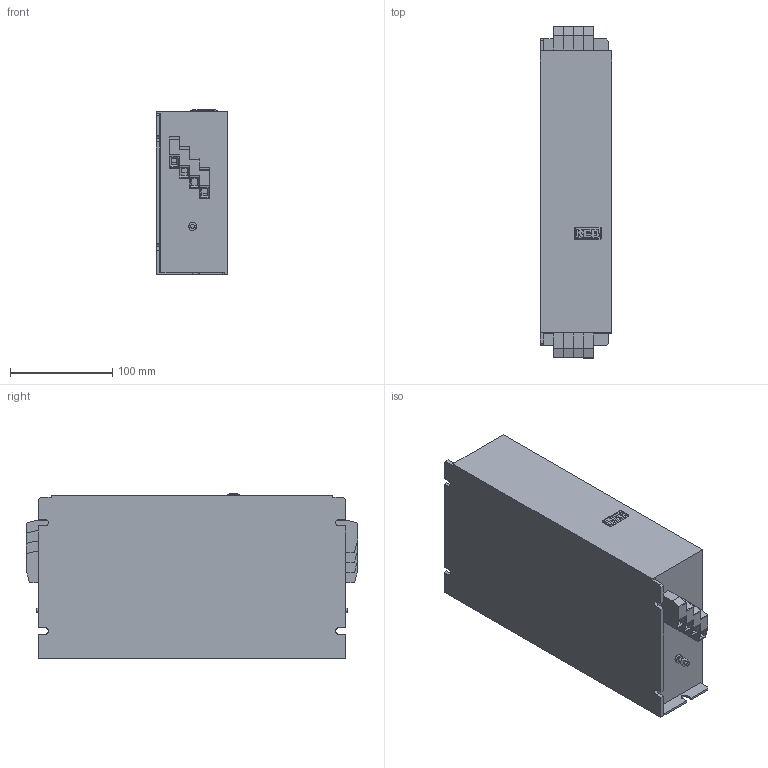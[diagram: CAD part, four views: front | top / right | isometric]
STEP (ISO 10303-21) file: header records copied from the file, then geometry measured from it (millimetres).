
FILE_DESCRIPTION (( 'STEP AP214' ), '1' );
FILE_NAME ('00E6X04-0016.STEP', '2023-07-10T12:13:47', ( '' ), ( '' ), 'SwSTEP 2.0', 'SolidWorks 2022', '' );
FILE_SCHEMA (( 'AUTOMOTIVE_DESIGN' ));
Length unit declared in the file: millimetre
Products named in the file (1): 00E6X04-0016
Bounding box: 70 x 325 x 161.52 mm (x, y, z)
Volume: 3162003.5 mm3; surface area: 171683.9 mm2
Topology: 1 solids, 1 shells, 280 faces, 725 edges, 470 vertices
Faces by surface type: plane 216, cylinder 51, bspline 13
Entity records: 9332 total; most frequent: CARTESIAN_POINT 2369, ORIENTED_EDGE 1450, DIRECTION 1263, EDGE_CURVE 725, VECTOR 543, LINE 543, VERTEX_POINT 470, AXIS2_PLACEMENT_3D 360
